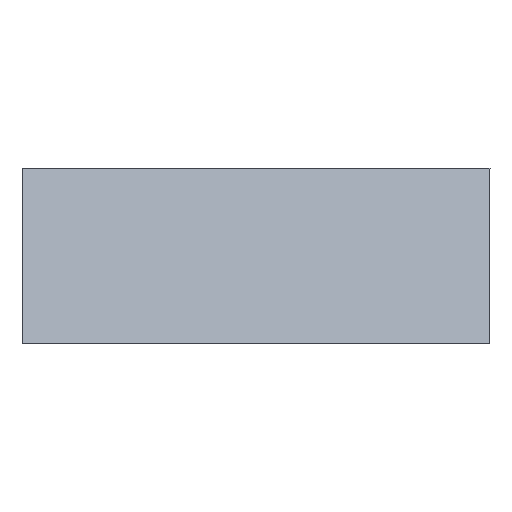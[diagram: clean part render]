
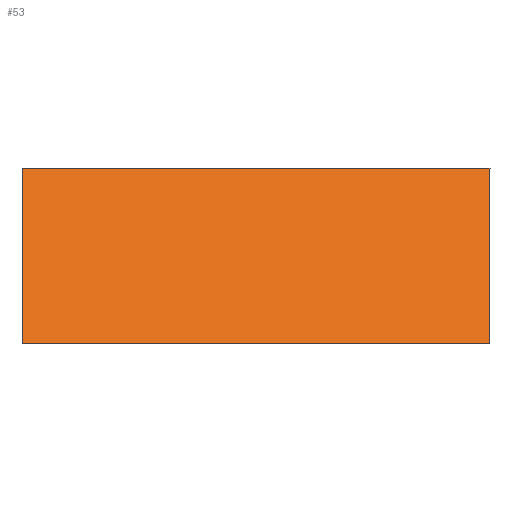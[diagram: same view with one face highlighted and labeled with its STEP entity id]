
A CAD part, left-side view. The second image highlights one B-rep face of the part: STEP entity #53.
In plain terms, the highlighted planar face has unit normal (-0.707, 0, 0.707).
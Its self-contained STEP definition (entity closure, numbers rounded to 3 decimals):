
#53=ADVANCED_FACE('',(#69),#70,.F.);
#69=FACE_OUTER_BOUND('',#96,.T.);
#70=PLANE('',#97);
#96=EDGE_LOOP('',(#133,#134,#135,#136));
#97=AXIS2_PLACEMENT_3D('',#137,#138,#139);
#133=ORIENTED_EDGE('',*,*,#222,.F.);
#134=ORIENTED_EDGE('',*,*,#223,.T.);
#135=ORIENTED_EDGE('',*,*,#224,.F.);
#136=ORIENTED_EDGE('',*,*,#225,.F.);
#137=CARTESIAN_POINT('',(204.,-10.5,21.));
#138=DIRECTION('',(0.707,0.,-0.707));
#139=DIRECTION('',(0.,-1.0,0.));
#222=EDGE_CURVE('',#256,#257,#258,.T.);
#223=EDGE_CURVE('',#256,#259,#260,.T.);
#224=EDGE_CURVE('',#261,#259,#262,.T.);
#225=EDGE_CURVE('',#257,#261,#263,.T.);
#256=VERTEX_POINT('',#308);
#257=VERTEX_POINT('',#309);
#258=LINE('',#310,#311);
#259=VERTEX_POINT('',#312);
#260=LINE('',#313,#314);
#261=VERTEX_POINT('',#315);
#262=LINE('',#316,#317);
#263=LINE('',#318,#319);
#308=CARTESIAN_POINT('',(202.5,-4.5,19.5));
#309=CARTESIAN_POINT('',(205.5,-4.5,22.5));
#310=CARTESIAN_POINT('',(204.75,-4.5,21.75));
#311=VECTOR('',#386,1.0);
#312=CARTESIAN_POINT('',(202.5,-12.5,19.5));
#313=CARTESIAN_POINT('',(202.5,-12.5,19.5));
#314=VECTOR('',#387,1.0);
#315=CARTESIAN_POINT('',(205.5,-12.5,22.5));
#316=CARTESIAN_POINT('',(204.,-12.5,21.));
#317=VECTOR('',#388,1.0);
#318=CARTESIAN_POINT('',(205.5,-9.05,22.5));
#319=VECTOR('',#389,1.0);
#386=DIRECTION('',(0.707,0.,0.707));
#387=DIRECTION('',(0.,-1.0,0.));
#388=DIRECTION('',(-0.707,0.,-0.707));
#389=DIRECTION('',(0.,-1.0,0.));
